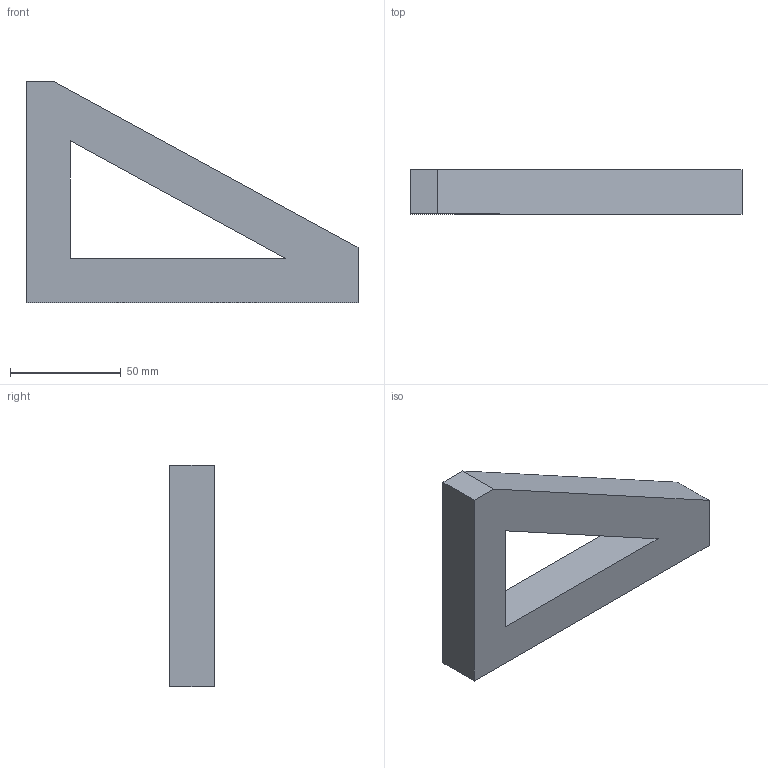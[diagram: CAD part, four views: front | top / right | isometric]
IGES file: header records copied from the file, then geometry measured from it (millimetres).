
Start section: SolidWorks IGES file using analytic representation for surfaces
Global section: file name: C:\Documents and Settings\Pc\Escritorio\Modelos 3D\Capítulo 5 (Estudio diseño)\OTROS\ejemplo sencillo.IGS; native system: SolidWorks 2010; preprocessor: SolidWorks 2010; author: Pc; date: 100623.114145; units: millimetre
Bounding box: 150 x 20 x 100 mm (x, y, z)
Surface area: 28624.9 mm2 (no closed solid volume)
Topology: 0 solids, 0 shells, 10 faces, 48 edges, 48 vertices
Faces by surface type: bspline 10
